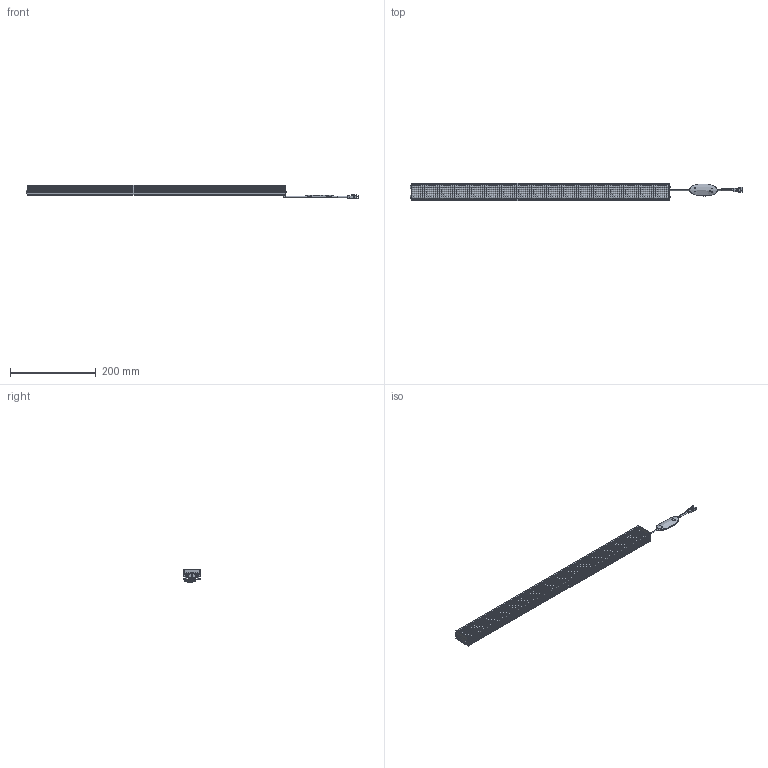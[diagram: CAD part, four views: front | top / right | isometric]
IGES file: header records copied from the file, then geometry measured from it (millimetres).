
Start section: 3D InterOp IGES (v. 2019 1.0.2), Spatial Corp. Copyright (c) 1999-2017.
Global section: file name: VBA-60030_DRAWING_3D.iges; native system: Spatial Corp.; preprocessor: 3D InterOp ACIS/IGES; author: Noname; organization: Noname; date: 20230914.102023; units: millimetre
Bounding box: 776 x 41 x 30.5 mm (x, y, z)
Surface area: 239691.9 mm2 (no closed solid volume)
Topology: 0 solids, 0 shells, 3504 faces, 20650 edges, 20650 vertices
Faces by surface type: revolution 2054, extrusion 1444, bspline 6
